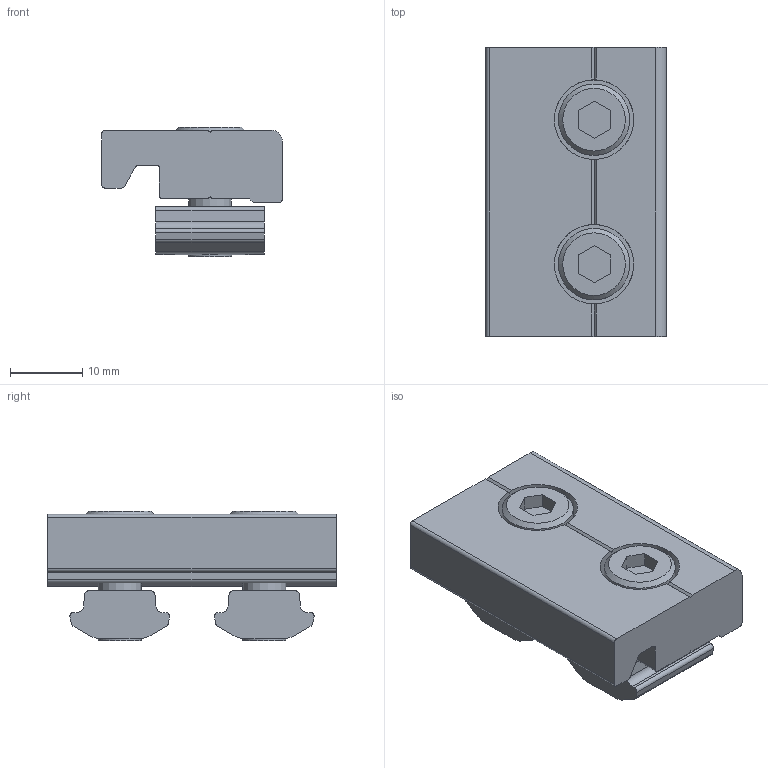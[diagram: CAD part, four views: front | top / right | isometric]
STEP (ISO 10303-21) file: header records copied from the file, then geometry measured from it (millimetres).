
FILE_DESCRIPTION(('STEP AP214'),'1');
FILE_NAME('SL3B-L40.stp','2017-07-26T07:21:58',(' '),(' '),'Spatial InterOp 3D',' ',' ');
FILE_SCHEMA(('automotive_design'));
Length unit declared in the file: millimetre
Products named in the file (4): SL3B-L40; SL3H-L40; NF40-M6
Assembly tree (5 placements, depth 2):
  SL3B-L40
    SL3H-L40
    (unnamed)  x2
    NF40-M6  x2
Bounding box: 25 x 40 x 17.93 mm (x, y, z)
Volume: 10543 mm3; surface area: 6422.6 mm2
Topology: 5 solids, 5 shells, 114 faces, 306 edges, 202 vertices
Faces by surface type: plane 74, cylinder 36, cone 4
Full cylindrical faces by diameter (mm): 6 x2, 6.6 x2, 9.87 x2, 11 x2
Entity records: 3151 total; most frequent: CARTESIAN_POINT 441, DIRECTION 438, ORIENTED_EDGE 404, EDGE_CURVE 202, AXIS2_PLACEMENT_3D 155, VERTEX_POINT 138, LINE 128, VECTOR 128
